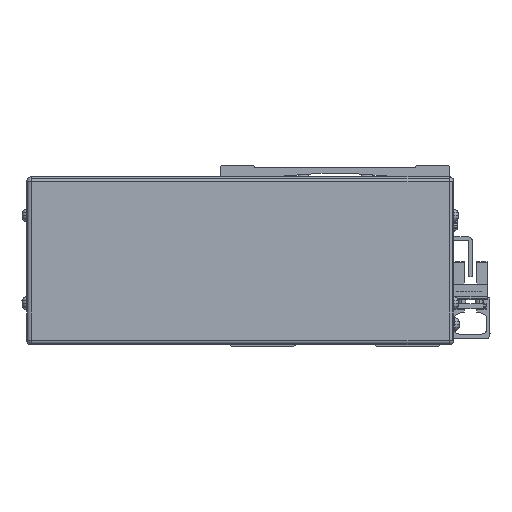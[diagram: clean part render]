
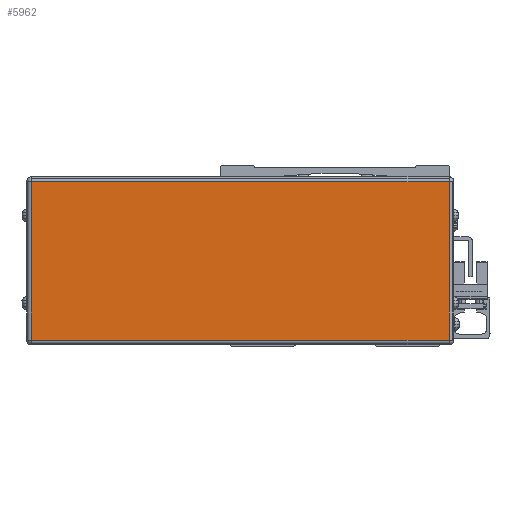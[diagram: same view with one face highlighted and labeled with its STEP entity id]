
A CAD part, front view. The second image highlights one B-rep face of the part: STEP entity #5962.
In plain terms, the highlighted planar face has unit normal (0, -1, 0).
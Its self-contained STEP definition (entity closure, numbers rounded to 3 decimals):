
#5962=ADVANCED_FACE('',(#12799),#12800,.F.);
#12799=FACE_OUTER_BOUND('',#21415,.T.);
#12800=PLANE('',#21416);
#21415=EDGE_LOOP('',(#39724,#39725,#39726,#39727));
#21416=AXIS2_PLACEMENT_3D('',#39728,#39729,#39730);
#39724=ORIENTED_EDGE('',*,*,#50396,.T.);
#39725=ORIENTED_EDGE('',*,*,#54794,.T.);
#39726=ORIENTED_EDGE('',*,*,#54795,.T.);
#39727=ORIENTED_EDGE('',*,*,#54796,.T.);
#39728=CARTESIAN_POINT('',(-39.,-238.778,-42.5));
#39729=DIRECTION('',(0.0,1.0,-0.0));
#39730=DIRECTION('',(-1.0,0.0,0.0));
#50396=EDGE_CURVE('',#61433,#61431,#61434,.T.);
#54794=EDGE_CURVE('',#61431,#63482,#67696,.T.);
#54795=EDGE_CURVE('',#63482,#67586,#67697,.T.);
#54796=EDGE_CURVE('',#67586,#61433,#67698,.T.);
#61431=VERTEX_POINT('',#76850);
#61433=VERTEX_POINT('',#76852);
#61434=LINE('',#76853,#76854);
#63482=VERTEX_POINT('',#79944);
#67586=VERTEX_POINT('',#85925);
#67696=LINE('',#86075,#86076);
#67697=LINE('',#86077,#86078);
#67698=LINE('',#86079,#86080);
#76850=CARTESIAN_POINT('',(46.7,-238.778,-40.5));
#76852=CARTESIAN_POINT('',(-124.7,-238.778,-40.5));
#76853=CARTESIAN_POINT('',(-39.,-238.778,-40.5));
#76854=VECTOR('',#92384,10.0);
#79944=CARTESIAN_POINT('',(46.7,-238.778,24.5));
#85925=CARTESIAN_POINT('',(-124.7,-238.778,24.5));
#86075=CARTESIAN_POINT('',(46.7,-238.778,-42.5));
#86076=VECTOR('',#97636,10.0);
#86077=CARTESIAN_POINT('',(-39.,-238.778,24.5));
#86078=VECTOR('',#97637,10.0);
#86079=CARTESIAN_POINT('',(-124.7,-238.778,-42.5));
#86080=VECTOR('',#97638,10.0);
#92384=DIRECTION('',(1.0,0.0,0.0));
#97636=DIRECTION('',(0.0,0.0,1.0));
#97637=DIRECTION('',(-1.0,0.0,0.0));
#97638=DIRECTION('',(-0.0,0.0,-1.0));
